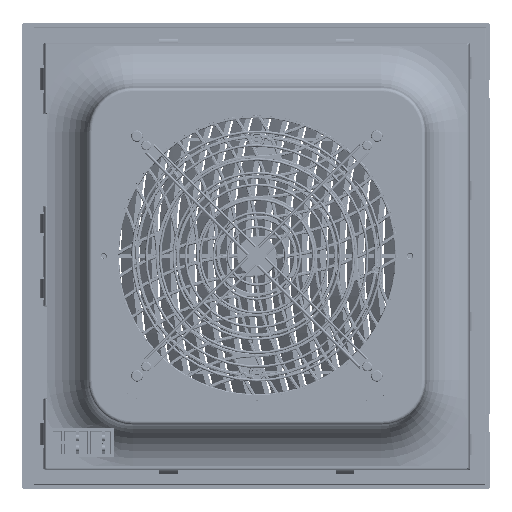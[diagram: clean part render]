
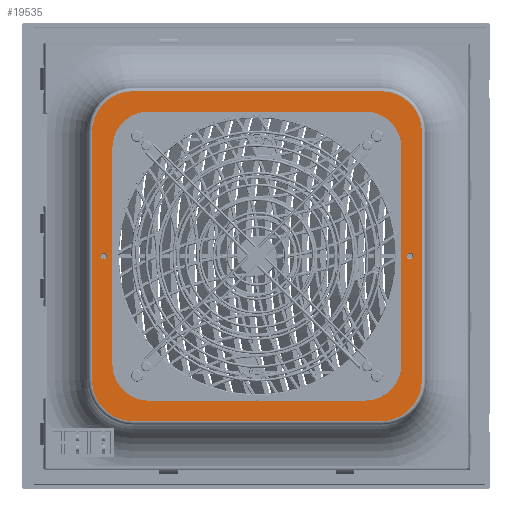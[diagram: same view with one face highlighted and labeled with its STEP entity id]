
A CAD part, top view. The second image highlights one B-rep face of the part: STEP entity #19535.
In plain terms, the highlighted planar face has unit normal (0, 0, 1).
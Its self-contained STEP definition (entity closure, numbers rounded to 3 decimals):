
#19535=ADVANCED_FACE('',(#38558,#38559,#38560,#38561,#38562,#38563,#38564,
#38565,#38566,#38567,#38568,#38569),#21969,.F.);
#21969=PLANE('',#136833);
#36547=CIRCLE('',#136780,28.159);
#36551=CIRCLE('',#136786,2.137);
#36552=CIRCLE('',#136788,4.25);
#36553=CIRCLE('',#136790,4.25);
#36554=CIRCLE('',#136792,2.137);
#36555=CIRCLE('',#136794,2.137);
#36560=CIRCLE('',#136801,28.159);
#36567=CIRCLE('',#136821,99.996);
#36570=CIRCLE('',#136826,28.159);
#36571=CIRCLE('',#136827,28.159);
#36572=CIRCLE('',#136828,2.137);
#36573=CIRCLE('',#136829,2.137);
#36574=CIRCLE('',#136830,4.25);
#36575=CIRCLE('',#136831,4.25);
#36576=CIRCLE('',#136832,2.137);
#38558=FACE_BOUND('',#46001,.T.);
#38559=FACE_BOUND('',#46002,.T.);
#38560=FACE_BOUND('',#46003,.T.);
#38561=FACE_BOUND('',#46004,.T.);
#38562=FACE_BOUND('',#46005,.T.);
#38563=FACE_BOUND('',#46006,.T.);
#38564=FACE_BOUND('',#46007,.T.);
#38565=FACE_BOUND('',#46008,.T.);
#38566=FACE_BOUND('',#46009,.T.);
#38567=FACE_BOUND('',#46010,.T.);
#38568=FACE_BOUND('',#46011,.T.);
#38569=FACE_BOUND('',#46012,.T.);
#46001=EDGE_LOOP('',(#78667,#78668,#78669,#78670,#78671,#78672,#78673,#78674));
#46002=EDGE_LOOP('',(#78675));
#46003=EDGE_LOOP('',(#78676));
#46004=EDGE_LOOP('',(#78677));
#46005=EDGE_LOOP('',(#78678));
#46006=EDGE_LOOP('',(#78679));
#46007=EDGE_LOOP('',(#78680));
#46008=EDGE_LOOP('',(#78681));
#46009=EDGE_LOOP('',(#78682));
#46010=EDGE_LOOP('',(#78683));
#46011=EDGE_LOOP('',(#78684));
#46012=EDGE_LOOP('',(#78685));
#78667=ORIENTED_EDGE('',*,*,#112474,.T.);
#78668=ORIENTED_EDGE('',*,*,#112475,.T.);
#78669=ORIENTED_EDGE('',*,*,#112476,.T.);
#78670=ORIENTED_EDGE('',*,*,#112477,.T.);
#78671=ORIENTED_EDGE('',*,*,#112472,.T.);
#78672=ORIENTED_EDGE('',*,*,#112449,.T.);
#78673=ORIENTED_EDGE('',*,*,#112438,.T.);
#78674=ORIENTED_EDGE('',*,*,#112435,.T.);
#78675=ORIENTED_EDGE('',*,*,#112444,.T.);
#78676=ORIENTED_EDGE('',*,*,#112443,.T.);
#78677=ORIENTED_EDGE('',*,*,#112442,.T.);
#78678=ORIENTED_EDGE('',*,*,#112441,.T.);
#78679=ORIENTED_EDGE('',*,*,#112440,.T.);
#78680=ORIENTED_EDGE('',*,*,#112470,.T.);
#78681=ORIENTED_EDGE('',*,*,#112478,.T.);
#78682=ORIENTED_EDGE('',*,*,#112479,.T.);
#78683=ORIENTED_EDGE('',*,*,#112480,.T.);
#78684=ORIENTED_EDGE('',*,*,#112481,.T.);
#78685=ORIENTED_EDGE('',*,*,#112482,.T.);
#94712=VERTEX_POINT('',#256291);
#94713=VERTEX_POINT('',#256292);
#94714=VERTEX_POINT('',#256297);
#94715=VERTEX_POINT('',#256301);
#94716=VERTEX_POINT('',#256304);
#94717=VERTEX_POINT('',#256307);
#94718=VERTEX_POINT('',#256310);
#94719=VERTEX_POINT('',#256313);
#94722=VERTEX_POINT('',#256323);
#94738=VERTEX_POINT('',#256450);
#94740=VERTEX_POINT('',#256455);
#94741=VERTEX_POINT('',#256459);
#94742=VERTEX_POINT('',#256461);
#94743=VERTEX_POINT('',#256463);
#94744=VERTEX_POINT('',#256466);
#94745=VERTEX_POINT('',#256468);
#94746=VERTEX_POINT('',#256470);
#94747=VERTEX_POINT('',#256472);
#94748=VERTEX_POINT('',#256474);
#112435=EDGE_CURVE('',#94712,#94713,#36547,.T.);
#112438=EDGE_CURVE('',#94714,#94712,#118748,.T.);
#112440=EDGE_CURVE('',#94715,#94715,#36551,.T.);
#112441=EDGE_CURVE('',#94716,#94716,#36552,.T.);
#112442=EDGE_CURVE('',#94717,#94717,#36553,.T.);
#112443=EDGE_CURVE('',#94718,#94718,#36554,.T.);
#112444=EDGE_CURVE('',#94719,#94719,#36555,.T.);
#112449=EDGE_CURVE('',#94722,#94714,#36560,.T.);
#112470=EDGE_CURVE('',#94738,#94738,#36567,.T.);
#112472=EDGE_CURVE('',#94740,#94722,#118754,.T.);
#112474=EDGE_CURVE('',#94713,#94741,#118755,.T.);
#112475=EDGE_CURVE('',#94741,#94742,#36570,.T.);
#112476=EDGE_CURVE('',#94742,#94743,#118756,.T.);
#112477=EDGE_CURVE('',#94743,#94740,#36571,.T.);
#112478=EDGE_CURVE('',#94744,#94744,#36572,.T.);
#112479=EDGE_CURVE('',#94745,#94745,#36573,.T.);
#112480=EDGE_CURVE('',#94746,#94746,#36574,.T.);
#112481=EDGE_CURVE('',#94747,#94747,#36575,.T.);
#112482=EDGE_CURVE('',#94748,#94748,#36576,.T.);
#118748=LINE('',#256296,#122573);
#118754=LINE('',#256454,#122579);
#118755=LINE('',#256458,#122580);
#118756=LINE('',#256462,#122581);
#122573=VECTOR('',#168208,1.);
#122579=VECTOR('',#168294,1.);
#122580=VECTOR('',#168299,1.);
#122581=VECTOR('',#168302,1.);
#136780=AXIS2_PLACEMENT_3D('',#256290,#168200,#168201);
#136786=AXIS2_PLACEMENT_3D('',#256300,#168213,#168214);
#136788=AXIS2_PLACEMENT_3D('',#256303,#168217,#168218);
#136790=AXIS2_PLACEMENT_3D('',#256306,#168221,#168222);
#136792=AXIS2_PLACEMENT_3D('',#256309,#168225,#168226);
#136794=AXIS2_PLACEMENT_3D('',#256312,#168229,#168230);
#136801=AXIS2_PLACEMENT_3D('',#256322,#168243,#168244);
#136821=AXIS2_PLACEMENT_3D('',#256449,#168288,#168289);
#136826=AXIS2_PLACEMENT_3D('',#256460,#168300,#168301);
#136827=AXIS2_PLACEMENT_3D('',#256464,#168303,#168304);
#136828=AXIS2_PLACEMENT_3D('',#256465,#168305,#168306);
#136829=AXIS2_PLACEMENT_3D('',#256467,#168307,#168308);
#136830=AXIS2_PLACEMENT_3D('',#256469,#168309,#168310);
#136831=AXIS2_PLACEMENT_3D('',#256471,#168311,#168312);
#136832=AXIS2_PLACEMENT_3D('',#256473,#168313,#168314);
#136833=AXIS2_PLACEMENT_3D('',#256475,#168315,#168316);
#168200=DIRECTION('',(0.,0.,1.));
#168201=DIRECTION('',(1.,0.,0.));
#168208=DIRECTION('',(0.,-1.,0.));
#168213=DIRECTION('',(0.,0.,-1.));
#168214=DIRECTION('',(-1.,0.,0.));
#168217=DIRECTION('',(0.,0.,-1.));
#168218=DIRECTION('',(1.,0.,0.));
#168221=DIRECTION('',(0.,0.,-1.));
#168222=DIRECTION('',(1.,0.,0.));
#168225=DIRECTION('',(0.,0.,-1.));
#168226=DIRECTION('',(-1.,0.,0.));
#168229=DIRECTION('',(0.,0.,-1.));
#168230=DIRECTION('',(-1.,0.,0.));
#168243=DIRECTION('',(0.,0.,1.));
#168244=DIRECTION('',(1.,0.,0.));
#168288=DIRECTION('',(0.,0.,-1.));
#168289=DIRECTION('',(-1.,0.,0.));
#168294=DIRECTION('',(-1.,0.,0.));
#168299=DIRECTION('',(1.,0.,0.));
#168300=DIRECTION('',(0.,0.,1.));
#168301=DIRECTION('',(1.,0.,0.));
#168302=DIRECTION('',(0.,1.,0.));
#168303=DIRECTION('',(0.,0.,1.));
#168304=DIRECTION('',(1.,0.,0.));
#168305=DIRECTION('',(0.,0.,-1.));
#168306=DIRECTION('',(-1.,0.,0.));
#168307=DIRECTION('',(0.,0.,-1.));
#168308=DIRECTION('',(-1.,0.,0.));
#168309=DIRECTION('',(0.,0.,-1.));
#168310=DIRECTION('',(1.,0.,0.));
#168311=DIRECTION('',(0.,0.,-1.));
#168312=DIRECTION('',(1.,0.,0.));
#168313=DIRECTION('',(0.,0.,-1.));
#168314=DIRECTION('',(-1.,0.,0.));
#168315=DIRECTION('',(0.,0.,-1.));
#168316=DIRECTION('',(1.,0.,0.));
#256290=CARTESIAN_POINT('',(-498.44,-1490.763,88.499));
#256291=CARTESIAN_POINT('',(-526.598,-1490.763,88.499));
#256292=CARTESIAN_POINT('',(-498.44,-1518.922,88.499));
#256296=CARTESIAN_POINT('',(-526.598,-1404.766,88.499));
#256297=CARTESIAN_POINT('',(-526.598,-1318.77,88.499));
#256300=CARTESIAN_POINT('',(-465.441,-1312.971,88.499));
#256301=CARTESIAN_POINT('',(-467.578,-1312.971,88.499));
#256303=CARTESIAN_POINT('',(-495.44,-1321.769,88.499));
#256304=CARTESIAN_POINT('',(-491.19,-1321.769,88.499));
#256306=CARTESIAN_POINT('',(-495.44,-1487.763,88.499));
#256307=CARTESIAN_POINT('',(-491.19,-1487.763,88.499));
#256309=CARTESIAN_POINT('',(-465.441,-1496.562,88.499));
#256310=CARTESIAN_POINT('',(-467.578,-1496.562,88.499));
#256312=CARTESIAN_POINT('',(-518.439,-1404.766,88.499));
#256313=CARTESIAN_POINT('',(-520.576,-1404.766,88.499));
#256322=CARTESIAN_POINT('',(-498.44,-1318.77,88.499));
#256323=CARTESIAN_POINT('',(-498.44,-1290.611,88.499));
#256449=CARTESIAN_POINT('',(-412.443,-1404.766,88.499));
#256450=CARTESIAN_POINT('',(-512.439,-1404.766,88.499));
#256454=CARTESIAN_POINT('',(-412.443,-1290.611,88.499));
#256455=CARTESIAN_POINT('',(-326.446,-1290.611,88.499));
#256458=CARTESIAN_POINT('',(-412.443,-1518.922,88.499));
#256459=CARTESIAN_POINT('',(-326.446,-1518.922,88.499));
#256460=CARTESIAN_POINT('',(-326.446,-1490.763,88.499));
#256461=CARTESIAN_POINT('',(-298.287,-1490.763,88.499));
#256462=CARTESIAN_POINT('',(-298.287,-1404.766,88.499));
#256463=CARTESIAN_POINT('',(-298.287,-1318.77,88.499));
#256464=CARTESIAN_POINT('',(-326.446,-1318.77,88.499));
#256465=CARTESIAN_POINT('',(-306.447,-1404.766,88.499));
#256466=CARTESIAN_POINT('',(-308.584,-1404.766,88.499));
#256467=CARTESIAN_POINT('',(-359.445,-1496.562,88.499));
#256468=CARTESIAN_POINT('',(-361.582,-1496.562,88.499));
#256469=CARTESIAN_POINT('',(-329.446,-1487.763,88.499));
#256470=CARTESIAN_POINT('',(-325.196,-1487.763,88.499));
#256471=CARTESIAN_POINT('',(-329.446,-1321.769,88.499));
#256472=CARTESIAN_POINT('',(-325.196,-1321.769,88.499));
#256473=CARTESIAN_POINT('',(-359.445,-1312.971,88.499));
#256474=CARTESIAN_POINT('',(-361.582,-1312.971,88.499));
#256475=CARTESIAN_POINT('',(-412.443,-1404.766,88.499));
